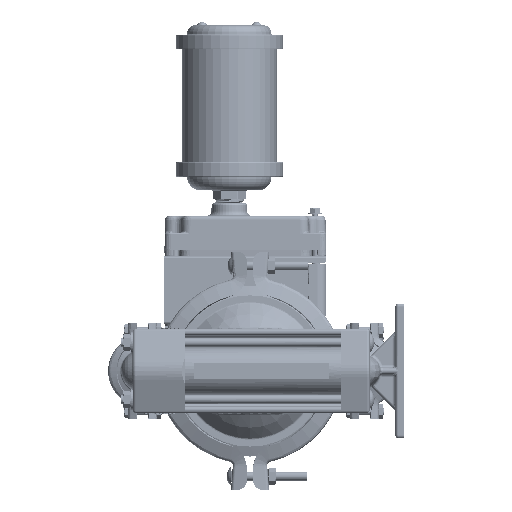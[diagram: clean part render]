
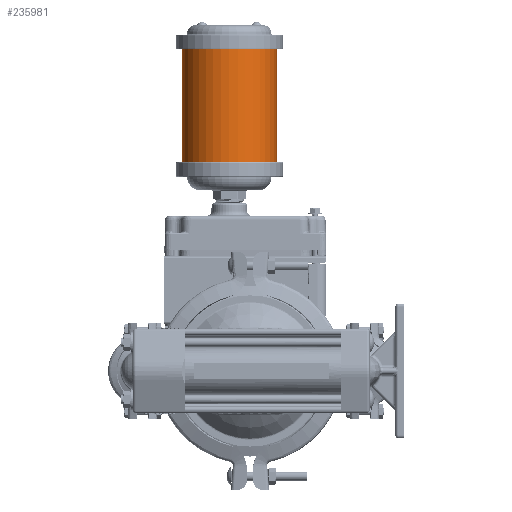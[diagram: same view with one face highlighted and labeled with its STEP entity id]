
A CAD part, left-side view. The second image highlights one B-rep face of the part: STEP entity #235981.
In plain terms, the highlighted cylindrical face has radius 35.56 mm (diameter 71.12 mm), a partial arc.
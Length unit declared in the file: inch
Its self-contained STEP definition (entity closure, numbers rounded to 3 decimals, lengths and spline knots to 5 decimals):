
#96389=DIRECTION('',(0.,0.,1.));
#96390=VECTOR('',#96389,3.339);
#96391=CARTESIAN_POINT('',(0.,-0.787,6.195));
#96392=LINE('',#96391,#96390);
#96393=DIRECTION('',(0.,0.,1.));
#96394=VECTOR('',#96393,3.339);
#96395=CARTESIAN_POINT('',(0.,2.013,6.195));
#96396=LINE('',#96395,#96394);
#96402=CARTESIAN_POINT('',(0.,0.613,6.195));
#96403=DIRECTION('',(0.,0.,-1.));
#96404=DIRECTION('',(0.,-1.,0.));
#96405=AXIS2_PLACEMENT_3D('',#96402,#96403,#96404);
#96417=CARTESIAN_POINT('',(0.,0.613,9.534));
#96418=DIRECTION('',(0.,0.,-1.));
#96419=DIRECTION('',(0.,-1.,0.));
#96420=AXIS2_PLACEMENT_3D('',#96417,#96418,#96419);
#133267=CARTESIAN_POINT('',(0.,-0.787,6.195));
#133268=CARTESIAN_POINT('',(0.,-0.787,9.534));
#133269=VERTEX_POINT('',#133267);
#133270=VERTEX_POINT('',#133268);
#133271=CARTESIAN_POINT('',(0.,2.013,6.195));
#133272=CARTESIAN_POINT('',(0.,2.013,9.534));
#133273=VERTEX_POINT('',#133271);
#133274=VERTEX_POINT('',#133272);
#235969=CARTESIAN_POINT('',(0.,0.613,10.5));
#235970=DIRECTION('',(0.,0.,-1.));
#235971=DIRECTION('',(0.,1.,0.));
#235972=AXIS2_PLACEMENT_3D('',#235969,#235970,#235971);
#235973=CYLINDRICAL_SURFACE('',#235972,1.4);
#235974=ORIENTED_EDGE('',*,*,#235959,.F.);
#235975=ORIENTED_EDGE('',*,*,#235937,.T.);
#235976=ORIENTED_EDGE('',*,*,#235963,.T.);
#235978=ORIENTED_EDGE('',*,*,#235977,.F.);
#235979=EDGE_LOOP('',(#235974,#235975,#235976,#235978));
#235980=FACE_OUTER_BOUND('',#235979,.F.);
#235981=ADVANCED_FACE('',(#235980),#235973,.T.);
#96406=CIRCLE('',#96405,1.4);
#96421=CIRCLE('',#96420,1.4);
#235937=EDGE_CURVE('',#133269,#133273,#96406,.T.);
#235959=EDGE_CURVE('',#133269,#133270,#96392,.T.);
#235963=EDGE_CURVE('',#133273,#133274,#96396,.T.);
#235977=EDGE_CURVE('',#133270,#133274,#96421,.T.);
